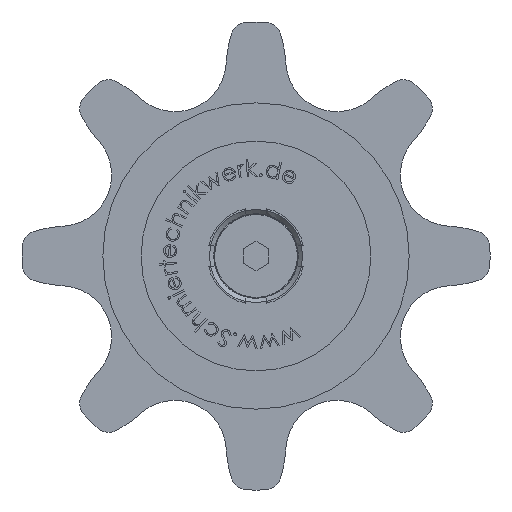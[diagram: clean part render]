
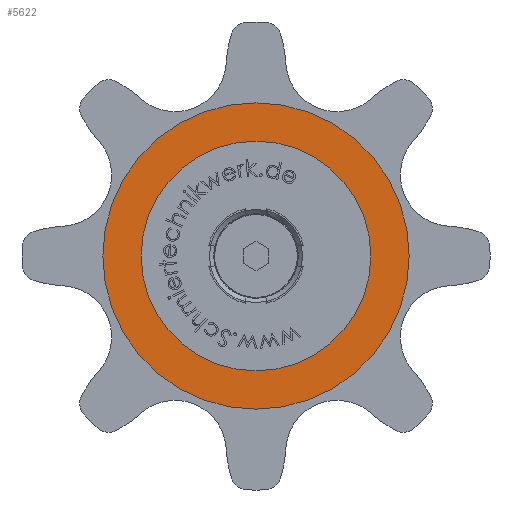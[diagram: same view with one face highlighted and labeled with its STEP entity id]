
A CAD part, front view. The second image highlights one B-rep face of the part: STEP entity #5622.
In plain terms, the highlighted planar face has unit normal (0, -1, 0).
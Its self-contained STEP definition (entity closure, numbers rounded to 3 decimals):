
#1314 = DIRECTION ( 'NONE',  ( 0., 1., 0. ) ) ;
#2772 = AXIS2_PLACEMENT_3D ( 'NONE', #8432, #10448, #12240 ) ;
#3150 = CARTESIAN_POINT ( 'NONE',  ( 0., -85., 18. ) ) ;
#3594 = EDGE_CURVE ( 'NONE', #10396, #10396, #14953, .T. ) ;
#4676 = AXIS2_PLACEMENT_3D ( 'NONE', #19625, #1314, #8549 ) ;
#5431 = CIRCLE ( 'NONE', #2772, 8. ) ;
#5622 = ADVANCED_FACE ( 'NONE', ( #23135, #15872 ), #19685, .T. ) ;
#5754 = EDGE_LOOP ( 'NONE', ( #8836 ) ) ;
#8432 = CARTESIAN_POINT ( 'NONE',  ( 0., -85., 0. ) ) ;
#8549 = DIRECTION ( 'NONE',  ( 0., 0., 1. ) ) ;
#8836 = ORIENTED_EDGE ( 'NONE', *, *, #17253, .T. ) ;
#8845 = ORIENTED_EDGE ( 'NONE', *, *, #3594, .F. ) ;
#8984 = DIRECTION ( 'NONE',  ( 0., -1., 0. ) ) ;
#10396 = VERTEX_POINT ( 'NONE', #3150 ) ;
#10448 = DIRECTION ( 'NONE',  ( 0., 1., 0. ) ) ;
#10878 = CARTESIAN_POINT ( 'NONE',  ( 0., -85., 0. ) ) ;
#12240 = DIRECTION ( 'NONE',  ( 0., 0., 1. ) ) ;
#12670 = DIRECTION ( 'NONE',  ( 0., 0., -1. ) ) ;
#14953 = CIRCLE ( 'NONE', #4676, 18. ) ;
#15266 = CARTESIAN_POINT ( 'NONE',  ( 0., -85., 8. ) ) ;
#15872 = FACE_BOUND ( 'NONE', #5754, .T. ) ;
#17253 = EDGE_CURVE ( 'NONE', #22639, #22639, #5431, .T. ) ;
#19625 = CARTESIAN_POINT ( 'NONE',  ( 0., -85., 0. ) ) ;
#19685 = PLANE ( 'NONE',  #23226 ) ;
#22639 = VERTEX_POINT ( 'NONE', #15266 ) ;
#22917 = EDGE_LOOP ( 'NONE', ( #8845 ) ) ;
#23135 = FACE_OUTER_BOUND ( 'NONE', #22917, .T. ) ;
#23226 = AXIS2_PLACEMENT_3D ( 'NONE', #10878, #8984, #12670 ) ;
